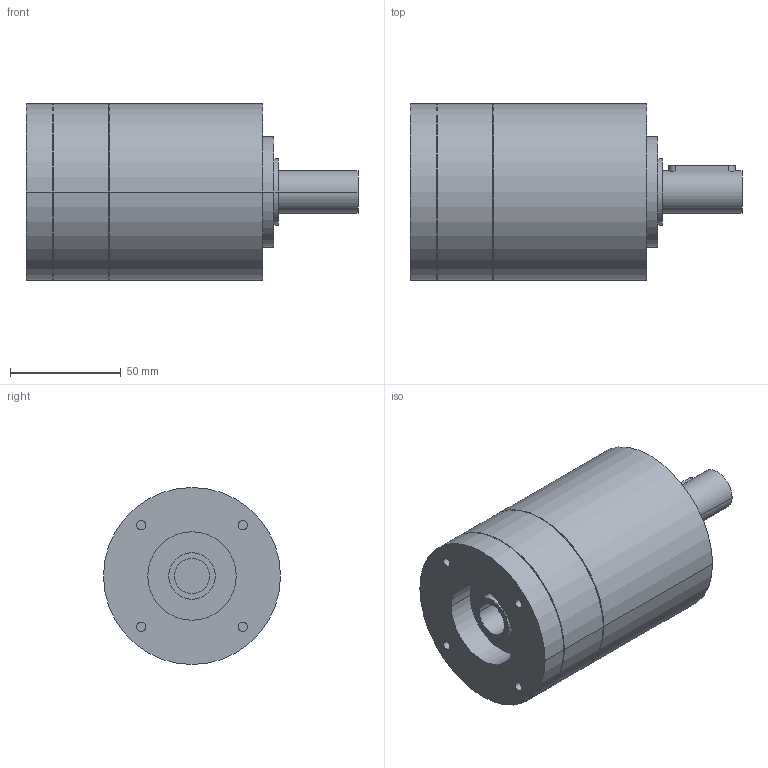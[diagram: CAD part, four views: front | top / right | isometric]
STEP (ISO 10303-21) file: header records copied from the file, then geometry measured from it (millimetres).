
FILE_DESCRIPTION(('CoCreate Modeling STEP Export'),'2;1');
FILE_NAME('GPR100_ig-3-4-5-6_19_B14_15.87_P26.stp','2014-08-26T10:07:52',(''),(''),'CoCreate Modeling STEP processor for AP214 (Solid Model)','CoCreate Modeling 16.00C 25-Feb-2009 (C) Parametric Technology GmbH','');
FILE_SCHEMA(('AUTOMOTIVE_DESIGN { 1 0 10303 214 1 1 1 1 }'));
Length unit declared in the file: millimetre
Products named in the file (2): GPR100_ig-3-4-5-6_19_B14_15.87_P26
Assembly tree (1 placements, depth 2):
  GPR100_ig-3-4-5-6_19_B14_15.87_P26
    GPR100_ig-3-4-5-6_19_B14_15.87_P26
Bounding box: 150 x 80 x 80 mm (x, y, z)
Volume: 536764 mm3; surface area: 46365.8 mm2
Topology: 1 solids, 1 shells, 65 faces, 155 edges, 107 vertices
Faces by surface type: cylinder 38, plane 21, cone 6
Entity records: 1621 total; most frequent: ORIENTED_EDGE 306, CARTESIAN_POINT 303, DIRECTION 214, EDGE_CURVE 153, VERTEX_POINT 107, AXIS2_PLACEMENT_3D 82, EDGE_LOOP 82, FACE_OUTER_BOUND 65
